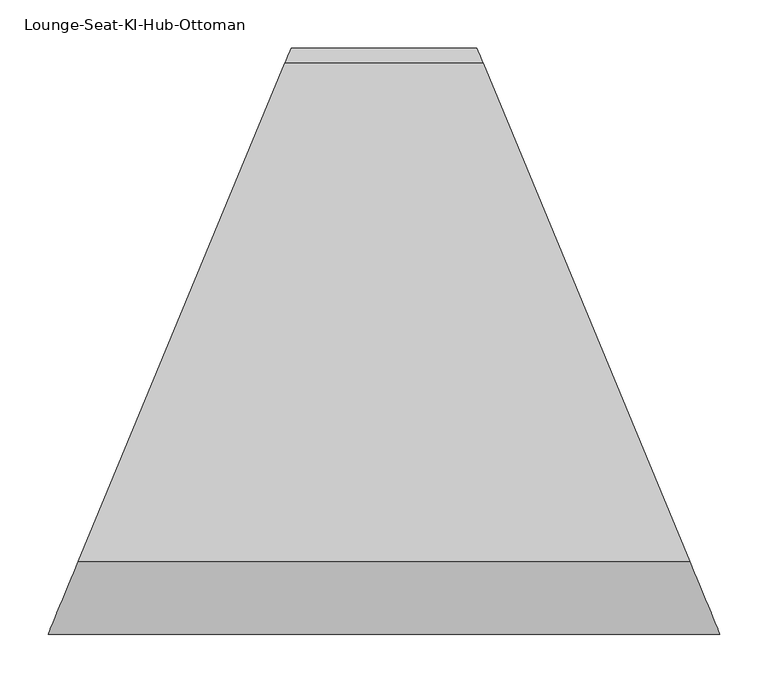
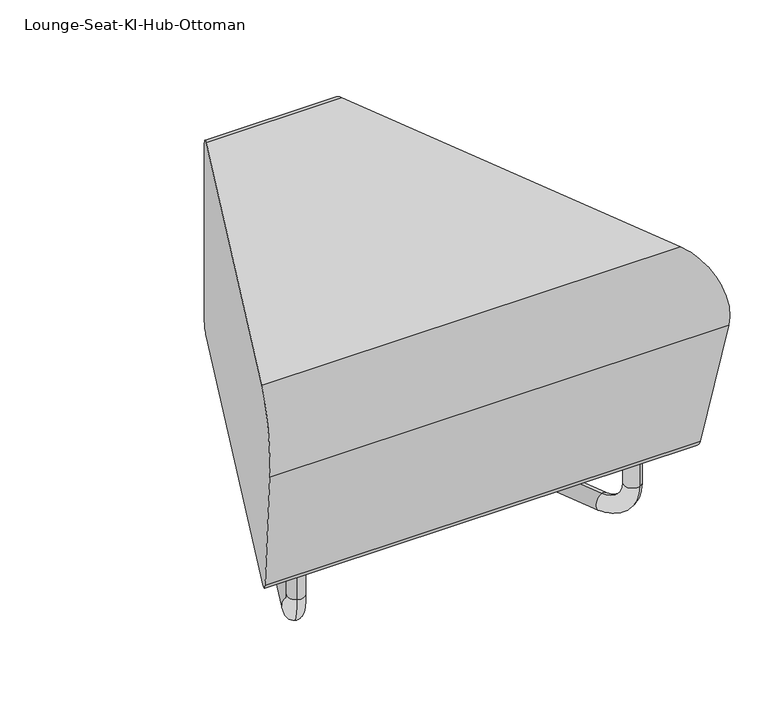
"""IFC4 building model written with IfcOpenShell, lengths in millimetres: furniture geometry."""

from ifc_helpers import new_model, si_unit, point, frame, origin, place, context, project, spatial, circle_curve, ellipse_curve, trimmed, source, transform, mapped, element, save
from ifc_brep_helpers import plane_surface, cylinder_surface, revolved_surface, advanced_brep


def lounge_seat_ki_hub_ottoman_141fb957(model_context):
    return source(origin(), model_context, "Body", "AdvancedBrep", [
        advanced_brep(
        [(75.5608946, 222.9321312, 120.65), (85.2810538, 199.4655911, 120.65), (85.2810538, 199.4655911, 63.5), (75.5608946, 222.9321312, 63.5), (99.8612926, 164.2657809, 25.4), (99.8612926, 164.2657809, 0.0), (235.9435211, -164.2657809, 25.4), (235.9435211, -164.2657809, 0.0), (250.5237599, -199.4655911, 63.5), (260.2439191, -222.9321312, 63.5), (260.2439191, -222.9321312, 120.65), (250.5237599, -199.4655911, 120.65)],
        [
            (0, 1, circle_curve(frame((80.4209742, 211.1988611, 120.65), z_axis=(0.0, 0.0, 1.0), x_axis=(0.3826834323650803, -0.9238795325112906, 0.0)), 12.7)),
            (1, 0, circle_curve(frame((80.4209742, 211.1988611, 120.65), z_axis=(0.0, 0.0, 1.0), x_axis=(0.3826834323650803, -0.9238795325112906, 0.0)), 12.7)),
            (1, 2),
            (2, 3, circle_curve(frame((80.4209742, 211.1988611, 63.5), z_axis=(0.0, 0.0, 1.0), x_axis=(0.3826834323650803, -0.9238795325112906, 0.0)), 12.7)),
            (3, 0),
            (3, 2, circle_curve(frame((80.4209742, 211.1988611, 63.5), z_axis=(0.0, 0.0, 1.0), x_axis=(0.3826834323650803, -0.9238795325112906, 0.0)), 12.7)),
            (4, 5, circle_curve(frame((99.8612926, 164.2657809, 12.7), z_axis=(-0.3826834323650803, 0.9238795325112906, 0.0), x_axis=(0.0, 0.0, 1.0)), 12.7)),
            (5, 3, circle_curve(frame((99.8612926, 164.2657809, 63.5), z_axis=(0.9238795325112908, 0.3826834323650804, 0.0), x_axis=(-0.3826834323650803, 0.9238795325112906, 0.0)), 63.5)),
            (2, 4, circle_curve(frame((99.8612926, 164.2657809, 63.5), z_axis=(-0.9238795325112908, -0.3826834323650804, 0.0), x_axis=(-0.3826834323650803, 0.9238795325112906, 0.0)), 38.1)),
            (5, 4, circle_curve(frame((99.8612926, 164.2657809, 12.7), z_axis=(-0.3826834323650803, 0.9238795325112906, 0.0), x_axis=(0.0, 0.0, 1.0)), 12.7)),
            (4, 6),
            (6, 7, circle_curve(frame((235.9435211, -164.2657809, 12.7), z_axis=(-0.3826834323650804, 0.9238795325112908, 0.0), x_axis=(0.0, 0.0, 1.0)), 12.7)),
            (7, 5),
            (7, 6, circle_curve(frame((235.9435211, -164.2657809, 12.7), z_axis=(-0.3826834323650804, 0.9238795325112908, 0.0), x_axis=(0.0, 0.0, 1.0)), 12.7)),
            (8, 9, circle_curve(frame((255.3838395, -211.1988611, 63.5), z_axis=(0.0, 0.0, -1.0), x_axis=(-0.3826834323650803, 0.9238795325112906, 0.0)), 12.7)),
            (9, 7, circle_curve(frame((235.9435211, -164.2657809, 63.5), z_axis=(0.9238795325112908, 0.3826834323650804, 0.0), x_axis=(0.0, 0.0, -1.0)), 63.5)),
            (6, 8, circle_curve(frame((235.9435211, -164.2657809, 63.5), z_axis=(-0.9238795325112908, -0.3826834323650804, 0.0), x_axis=(0.0, 0.0, -1.0)), 38.1)),
            (9, 8, circle_curve(frame((255.3838395, -211.1988611, 63.5), z_axis=(0.0, 0.0, -1.0), x_axis=(-0.3826834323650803, 0.9238795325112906, 0.0)), 12.7)),
            (10, 11, circle_curve(frame((255.3838395, -211.1988611, 120.65), z_axis=(0.0, 0.0, 1.0), x_axis=(-0.3826834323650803, 0.9238795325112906, 0.0)), 12.7)),
            (11, 10, circle_curve(frame((255.3838395, -211.1988611, 120.65), z_axis=(0.0, 0.0, 1.0), x_axis=(-0.3826834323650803, 0.9238795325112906, 0.0)), 12.7)),
            (8, 11),
            (10, 9),
        ],
        [
            plane_surface(frame((80.4209742, 211.1988611, 120.65), z_axis=(0.0, 0.0, 1.0000000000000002), x_axis=(0.9238795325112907, 0.38268343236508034, 0.0))),
            cylinder_surface(frame((80.4209742, 211.1988611, 120.65), z_axis=(0.0, 0.0, 1.0), x_axis=(0.3826834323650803, -0.9238795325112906, 0.0)), 12.7),
            revolved_surface(trimmed(ellipse_curve(frame((80.4209742, 211.1988611, 63.5), z_axis=(0.0, 0.0, -1.0), x_axis=(0.3826834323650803, -0.9238795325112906, 0.0)), 12.7, 12.7), [point((75.5608946, 222.9321312, 63.5))], [point((85.2810538, 199.4655911, 63.5))], True, "CARTESIAN"), (99.8612926, 164.2657809, 63.5), (0.9238795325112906, 0.3826834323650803, 0.0)),
            revolved_surface(trimmed(ellipse_curve(frame((80.4209742, 211.1988611, 63.5), z_axis=(0.0, 0.0, -1.0), x_axis=(0.3826834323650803, -0.9238795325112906, 0.0)), 12.7, 12.7), [point((85.2810538, 199.4655911, 63.5))], [point((75.5608946, 222.9321312, 63.5))], True, "CARTESIAN"), (99.8612926, 164.2657809, 63.5), (0.9238795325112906, 0.3826834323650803, 0.0)),
            cylinder_surface(frame((99.8612926, 164.2657809, 12.7), z_axis=(-0.3826834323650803, 0.9238795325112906, 0.0), x_axis=(0.0, 0.0, 1.0)), 12.7),
            revolved_surface(trimmed(ellipse_curve(frame((235.9435211, -164.2657809, 12.7), z_axis=(0.3826834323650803, -0.9238795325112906, 0.0), x_axis=(0.0, 0.0, 1.0)), 12.7, 12.7), [point((235.9435211, -164.2657809, 0.0))], [point((235.9435211, -164.2657809, 25.4))], True, "CARTESIAN"), (235.9435211, -164.2657809, 63.5), (0.9238795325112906, 0.3826834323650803, 0.0)),
            revolved_surface(trimmed(ellipse_curve(frame((235.9435211, -164.2657809, 12.7), z_axis=(0.3826834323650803, -0.9238795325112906, 0.0), x_axis=(0.0, 0.0, 1.0)), 12.7, 12.7), [point((235.9435211, -164.2657809, 25.4))], [point((235.9435211, -164.2657809, 0.0))], True, "CARTESIAN"), (235.9435211, -164.2657809, 63.5), (0.9238795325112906, 0.3826834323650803, 0.0)),
            plane_surface(frame((255.3838395, -211.1988611, 120.65), z_axis=(0.0, 0.0, 1.0000000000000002), x_axis=(0.9238795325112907, 0.38268343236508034, 0.0))),
            cylinder_surface(frame((255.3838395, -211.1988611, 63.5), z_axis=(0.0, 0.0, -1.0), x_axis=(-0.3826834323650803, 0.9238795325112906, 0.0)), 12.7),
        ],
        [
            (0, [[1, 2]]),
            (1, [[3, 4, 5, -2]]),
            (1, [[-5, 6, -3, -1]]),
            (2, [[7, 8, -4, 9]]),
            (3, [[10, -9, -6, -8]]),
            (4, [[11, 12, 13, -7]]),
            (4, [[-13, 14, -11, -10]]),
            (5, [[15, 16, -12, 17]]),
            (6, [[18, -17, -14, -16]]),
            (7, [[19, 20]]),
            (8, [[21, -19, 22, -15]]),
            (8, [[-22, -20, -21, -18]]),
        ],
    ),
        advanced_brep(
        [(-75.5608946, 222.9321312, 120.65), (-85.2810538, 199.4655911, 120.65), (-85.2810538, 199.4655911, 63.5), (-75.5608946, 222.9321312, 63.5), (-99.8612926, 164.2657809, 25.4), (-99.8612926, 164.2657809, 0.0), (-235.9435211, -164.2657809, 25.4), (-235.9435211, -164.2657809, 0.0), (-250.5237599, -199.4655911, 63.5), (-260.2439191, -222.9321312, 63.5), (-260.2439191, -222.9321312, 120.65), (-250.5237599, -199.4655911, 120.65)],
        [
            (0, 1, circle_curve(frame((-80.4209742, 211.1988611, 120.65), z_axis=(0.0, 0.0, 1.0), x_axis=(-0.38268343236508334, -0.9238795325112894, 0.0)), 12.7)),
            (1, 0, circle_curve(frame((-80.4209742, 211.1988611, 120.65), z_axis=(0.0, 0.0, 1.0), x_axis=(-0.38268343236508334, -0.9238795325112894, 0.0)), 12.7)),
            (1, 2),
            (2, 3, circle_curve(frame((-80.4209742, 211.1988611, 63.5), z_axis=(0.0, 0.0, 1.0), x_axis=(-0.38268343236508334, -0.9238795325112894, 0.0)), 12.7)),
            (3, 0),
            (3, 2, circle_curve(frame((-80.4209742, 211.1988611, 63.5), z_axis=(0.0, 0.0, 1.0), x_axis=(-0.38268343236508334, -0.9238795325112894, 0.0)), 12.7)),
            (4, 5, circle_curve(frame((-99.8612926, 164.2657809, 12.7), z_axis=(0.38268343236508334, 0.9238795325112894, 0.0), x_axis=(0.0, 0.0, 1.0)), 12.7)),
            (5, 3, circle_curve(frame((-99.8612926, 164.2657809, 63.5), z_axis=(0.9238795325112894, -0.38268343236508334, 0.0), x_axis=(0.38268343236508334, 0.9238795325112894, 0.0)), 63.5)),
            (2, 4, circle_curve(frame((-99.8612926, 164.2657809, 63.5), z_axis=(-0.9238795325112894, 0.38268343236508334, 0.0), x_axis=(0.38268343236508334, 0.9238795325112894, 0.0)), 38.1)),
            (5, 4, circle_curve(frame((-99.8612926, 164.2657809, 12.7), z_axis=(0.38268343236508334, 0.9238795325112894, 0.0), x_axis=(0.0, 0.0, 1.0)), 12.7)),
            (4, 6),
            (6, 7, circle_curve(frame((-235.9435211, -164.2657809, 12.7), z_axis=(0.38268343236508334, 0.9238795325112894, 0.0), x_axis=(0.0, 0.0, 1.0)), 12.7)),
            (7, 5),
            (7, 6, circle_curve(frame((-235.9435211, -164.2657809, 12.7), z_axis=(0.38268343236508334, 0.9238795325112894, 0.0), x_axis=(0.0, 0.0, 1.0)), 12.7)),
            (8, 9, circle_curve(frame((-255.3838395, -211.1988611, 63.5), z_axis=(0.0, 0.0, -1.0), x_axis=(0.38268343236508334, 0.9238795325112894, 0.0)), 12.7)),
            (9, 7, circle_curve(frame((-235.9435211, -164.2657809, 63.5), z_axis=(0.9238795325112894, -0.38268343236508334, 0.0), x_axis=(0.0, 0.0, -1.0)), 63.5)),
            (6, 8, circle_curve(frame((-235.9435211, -164.2657809, 63.5), z_axis=(-0.9238795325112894, 0.38268343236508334, 0.0), x_axis=(0.0, 0.0, -1.0)), 38.1)),
            (9, 8, circle_curve(frame((-255.3838395, -211.1988611, 63.5), z_axis=(0.0, 0.0, -1.0), x_axis=(0.38268343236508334, 0.9238795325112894, 0.0)), 12.7)),
            (10, 11, circle_curve(frame((-255.3838395, -211.1988611, 120.65), z_axis=(0.0, 0.0, 1.0), x_axis=(0.38268343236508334, 0.9238795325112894, 0.0)), 12.7)),
            (11, 10, circle_curve(frame((-255.3838395, -211.1988611, 120.65), z_axis=(0.0, 0.0, 1.0), x_axis=(0.38268343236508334, 0.9238795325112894, 0.0)), 12.7)),
            (8, 11),
            (10, 9),
        ],
        [
            plane_surface(frame((-80.4209742, 211.1988611, 120.65), z_axis=(0.0, 0.0, 1.0), x_axis=(0.9238795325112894, -0.38268343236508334, 0.0))),
            cylinder_surface(frame((-80.4209742, 211.1988611, 120.65), z_axis=(0.0, 0.0, 1.0), x_axis=(-0.38268343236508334, -0.9238795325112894, 0.0)), 12.7),
            revolved_surface(trimmed(ellipse_curve(frame((-80.4209742, 211.1988611, 63.5), z_axis=(0.0, 0.0, -1.0), x_axis=(-0.38268343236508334, -0.9238795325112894, 0.0)), 12.7, 12.7), [point((-75.5608946, 222.9321312, 63.5))], [point((-85.2810538, 199.4655911, 63.5))], True, "CARTESIAN"), (-99.8612926, 164.2657809, 63.5), (0.9238795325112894, -0.38268343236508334, 0.0)),
            revolved_surface(trimmed(ellipse_curve(frame((-80.4209742, 211.1988611, 63.5), z_axis=(0.0, 0.0, -1.0), x_axis=(-0.38268343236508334, -0.9238795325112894, 0.0)), 12.7, 12.7), [point((-85.2810538, 199.4655911, 63.5))], [point((-75.5608946, 222.9321312, 63.5))], True, "CARTESIAN"), (-99.8612926, 164.2657809, 63.5), (0.9238795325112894, -0.38268343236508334, 0.0)),
            cylinder_surface(frame((-99.8612926, 164.2657809, 12.7), z_axis=(0.38268343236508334, 0.9238795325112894, 0.0), x_axis=(0.0, 0.0, 1.0)), 12.7),
            revolved_surface(trimmed(ellipse_curve(frame((-235.9435211, -164.2657809, 12.7), z_axis=(-0.38268343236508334, -0.9238795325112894, 0.0), x_axis=(0.0, 0.0, 1.0)), 12.7, 12.7), [point((-235.9435211, -164.2657809, 0.0))], [point((-235.9435211, -164.2657809, 25.4))], True, "CARTESIAN"), (-235.9435211, -164.2657809, 63.5), (0.9238795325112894, -0.38268343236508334, 0.0)),
            revolved_surface(trimmed(ellipse_curve(frame((-235.9435211, -164.2657809, 12.7), z_axis=(-0.38268343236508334, -0.9238795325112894, 0.0), x_axis=(0.0, 0.0, 1.0)), 12.7, 12.7), [point((-235.9435211, -164.2657809, 25.4))], [point((-235.9435211, -164.2657809, 0.0))], True, "CARTESIAN"), (-235.9435211, -164.2657809, 63.5), (0.9238795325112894, -0.38268343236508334, 0.0)),
            plane_surface(frame((-255.3838395, -211.1988611, 120.65), z_axis=(0.0, 0.0, 1.0), x_axis=(0.9238795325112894, -0.38268343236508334, 0.0))),
            cylinder_surface(frame((-255.3838395, -211.1988611, 63.5), z_axis=(0.0, 0.0, -1.0), x_axis=(0.38268343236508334, 0.9238795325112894, 0.0)), 12.7),
        ],
        [
            (0, [[1, 2]]),
            (1, [[3, 4, 5, -2]]),
            (1, [[-5, 6, -3, -1]]),
            (2, [[7, 8, -4, 9]]),
            (3, [[10, -9, -6, -8]]),
            (4, [[11, 12, 13, -7]]),
            (4, [[-13, 14, -11, -10]]),
            (5, [[15, 16, -12, 17]]),
            (6, [[18, -17, -14, -16]]),
            (7, [[19, 20]]),
            (8, [[21, -19, 22, -15]]),
            (8, [[-22, -20, -21, -18]]),
        ],
    ),
        advanced_brep(
        [(-103.1015016, 289.1900216, 431.8), (-317.6869265, -228.8650216, 431.8), (317.6869265, -228.8650216, 431.8), (103.1015016, 289.1900216, 431.8), (103.1015016, 289.1900216, 120.65), (323.944396, -243.9718893, 120.65), (-323.944396, -243.9718893, 120.65), (-103.1015016, 289.1900216, 120.65), (-96.5258613, 305.0650216, 415.925), (-96.5258613, 305.0650216, 136.525), (-330.3763428, -259.4999824, 133.2244019), (-348.5602711, -303.3998688, 339.7571292), (-349.25, -305.0650216, 355.6), (349.25, -305.0650216, 355.6), (348.5602711, -303.3998688, 339.7571292), (330.3763428, -259.4999824, 133.2244019), (96.5258613, 305.0650216, 136.525), (96.5258613, 305.0650216, 415.925)],
        [
            (0, 1),
            (1, 2),
            (2, 3),
            (3, 0),
            (4, 5),
            (5, 6),
            (6, 7),
            (7, 4),
            (8, 9),
            (9, 7, ellipse_curve(frame((-103.1015016, 289.1900216, 136.525), z_axis=(-0.9238795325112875, 0.382683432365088, 0.0), x_axis=(0.38268343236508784, 0.9238795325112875, 0.0)), 17.1829762, 15.875)),
            (6, 10, ellipse_curve(frame((-323.944396, -243.9718893, 136.525), z_axis=(-0.9238795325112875, 0.382683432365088, 0.0), x_axis=(-0.38268343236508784, -0.9238795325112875, 0.0)), 17.1829762, 15.875)),
            (10, 11),
            (11, 12, ellipse_curve(frame((-317.6869265, -228.8650216, 355.6), z_axis=(-0.9238795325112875, 0.382683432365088, 0.0), x_axis=(-0.38268343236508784, -0.9238795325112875, 0.0)), 82.4782857, 76.2)),
            (12, 1, ellipse_curve(frame((-317.6869265, -228.8650216, 355.6), z_axis=(-0.9238795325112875, 0.382683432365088, 0.0), x_axis=(-0.38268343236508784, -0.9238795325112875, 0.0)), 82.4782857, 76.2)),
            (0, 8, ellipse_curve(frame((-103.1015016, 289.1900216, 415.925), z_axis=(-0.9238795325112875, 0.382683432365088, 0.0), x_axis=(0.38268343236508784, 0.9238795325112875, 0.0)), 17.1829762, 15.875)),
            (2, 13, ellipse_curve(frame((317.6869265, -228.8650216, 355.6), z_axis=(0.9238795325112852, 0.38268343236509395, 0.0), x_axis=(-0.3826834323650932, 0.9238795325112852, 0.0)), 82.4782857, 76.2)),
            (13, 14, ellipse_curve(frame((317.6869265, -228.8650216, 355.6), z_axis=(0.9238795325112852, 0.38268343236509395, 0.0), x_axis=(-0.3826834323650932, 0.9238795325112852, 0.0)), 82.4782857, 76.2)),
            (14, 15),
            (15, 5, ellipse_curve(frame((323.944396, -243.9718893, 136.525), z_axis=(0.9238795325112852, 0.38268343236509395, 0.0), x_axis=(-0.3826834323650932, 0.9238795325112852, 0.0)), 17.1829762, 15.875)),
            (4, 16, ellipse_curve(frame((103.1015016, 289.1900216, 136.525), z_axis=(0.9238795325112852, 0.38268343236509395, 0.0), x_axis=(0.3826834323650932, -0.9238795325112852, 0.0)), 17.1829762, 15.875)),
            (16, 17),
            (17, 3, ellipse_curve(frame((103.1015016, 289.1900216, 415.925), z_axis=(0.9238795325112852, 0.38268343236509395, 0.0), x_axis=(0.3826834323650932, -0.9238795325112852, 0.0)), 17.1829762, 15.875)),
            (17, 8),
            (16, 9),
            (10, 15),
            (14, 11),
        ],
        [
            plane_surface(frame((349.25, -289.1900216, 431.8), z_axis=(0.0, 0.0, 1.0), x_axis=(-1.0, 0.0, 0.0))),
            plane_surface(frame((349.25, 289.1900216, 120.65), z_axis=(0.0, 0.0, -1.0), x_axis=(-1.0, 0.0, 0.0))),
            plane_surface(frame((-96.5258613, 305.0650216, 457.2), z_axis=(-0.9238795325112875, 0.382683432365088, 0.0), x_axis=(0.0, 0.0, -1.0))),
            plane_surface(frame((349.25, -305.0650216, 457.2), z_axis=(0.9238795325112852, 0.38268343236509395, 0.0), x_axis=(0.0, 0.0, -1.0))),
            cylinder_surface(frame((-349.25, 289.1900216, 415.925), z_axis=(1.0, 0.0, 0.0), x_axis=(0.0, -1.0, 0.0)), 15.875),
            plane_surface(frame((349.25, 305.0650216, 415.925), z_axis=(0.0, 1.0, 0.0), x_axis=(-1.0, 0.0, 0.0))),
            cylinder_surface(frame((-349.25, 289.1900216, 136.525), z_axis=(1.0, 0.0, 0.0), x_axis=(0.0, -1.0, 0.0)), 15.875),
            plane_surface(frame((374.65, -303.3998688, 339.7571292), z_axis=(0.0, -0.9781476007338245, -0.20791169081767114), x_axis=(-1.0, 0.0, 0.0))),
            cylinder_surface(frame((-374.65, -243.9718893, 136.525), z_axis=(-1.0, 0.0, 0.0), x_axis=(0.0, -1.0, 0.0)), 15.875),
            cylinder_surface(frame((-374.65, -228.8650216, 355.6), z_axis=(-1.0, 0.0, 0.0), x_axis=(0.0, -1.0, 0.0)), 76.2),
        ],
        [
            (0, [[1, 2, 3, 4]]),
            (1, [[5, 6, 7, 8]]),
            (2, [[9, 10, -7, 11, 12, 13, 14, -1, 15]]),
            (3, [[-3, 16, 17, 18, 19, -5, 20, 21, 22]]),
            (4, [[-22, 23, -15, -4]]),
            (5, [[-21, 24, -9, -23]]),
            (6, [[-20, -8, -10, -24]]),
            (7, [[-12, 25, -18, 26]]),
            (8, [[-11, -6, -19, -25]]),
            (9, [[-17, -16, -2, -14, -13, -26]]),
        ],
    ),
    ])


if __name__ == "__main__":
    model = new_model("IFC4")
    model_context = context("Model", 3, world=origin())
    ifc_project = project(units=[si_unit("LENGTHUNIT", "METRE", prefix="MILLI")], contexts=[model_context])
    site = spatial("IfcSite", under=ifc_project)
    building = spatial("IfcBuilding", under=site)
    placement = place(None, origin())
    lounge_seat_ki_hub_ottoman_shape = lounge_seat_ki_hub_ottoman_141fb957(model_context)
    element("IfcFurniture", 1, ObjectType="Lounge-Seat-KI-Hub-Ottoman : 45\x9d\x9d° Wedge - Outside", at=placement, inside=building, context=model_context, shape_type="MappedRepresentation", body=[
        mapped(lounge_seat_ki_hub_ottoman_shape, transform((0.0, 0.0, 0.0), x_axis=(1.0, 0.0, 0.0), y_axis=(0.0, 1.0, 0.0), z_axis=(0.0, 0.0, 1.0))),
    ])
    save(model, "model.ifc")
